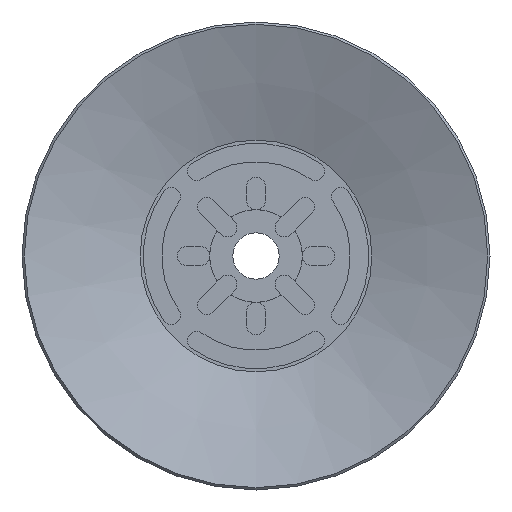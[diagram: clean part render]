
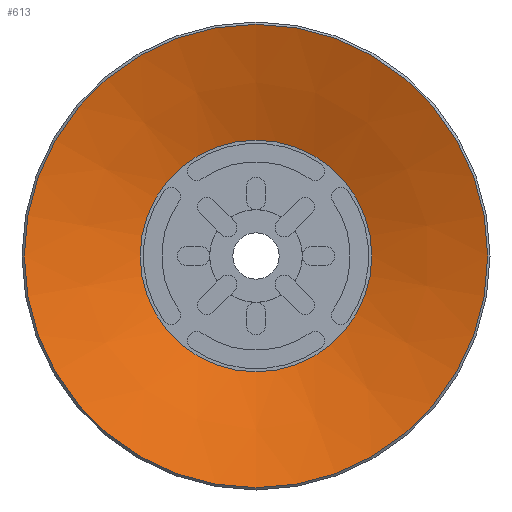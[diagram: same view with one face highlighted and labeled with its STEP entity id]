
A CAD part, front view. The second image highlights one B-rep face of the part: STEP entity #613.
In plain terms, the highlighted conical face has half-angle 70.201 degrees and reference radius 7.5 mm.
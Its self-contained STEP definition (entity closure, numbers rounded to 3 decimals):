
#613=ADVANCED_FACE('',(#999,#1000),#1001,.F.);
#999=FACE_BOUND('',#1431,.T.);
#1000=FACE_OUTER_BOUND('',#1432,.T.);
#1001=CONICAL_SURFACE('',#1433,7.5,1.225);
#1431=EDGE_LOOP('',(#2702));
#1432=EDGE_LOOP('',(#2703));
#1433=AXIS2_PLACEMENT_3D('',#2704,#2705,#2706);
#2702=ORIENTED_EDGE('',*,*,#3257,.F.);
#2703=ORIENTED_EDGE('',*,*,#3258,.T.);
#2704=CARTESIAN_POINT('',(0.0,0.0,2.7));
#2705=DIRECTION('',(0.0,0.,-1.0));
#2706=DIRECTION('',(0.0,1.0,0.));
#3257=EDGE_CURVE('',#3916,#3916,#3917,.T.);
#3258=EDGE_CURVE('',#3918,#3918,#3919,.T.);
#3916=VERTEX_POINT('',#5114);
#3917=CIRCLE('',#5115,7.5);
#3918=VERTEX_POINT('',#5116);
#3919=CIRCLE('',#5117,15.0);
#5114=CARTESIAN_POINT('',(0.0,7.5,2.7));
#5115=AXIS2_PLACEMENT_3D('',#5818,#5819,#5820);
#5116=CARTESIAN_POINT('',(0.0,15.0,0.));
#5117=AXIS2_PLACEMENT_3D('',#5821,#5822,#5823);
#5818=CARTESIAN_POINT('',(0.0,0.0,2.7));
#5819=DIRECTION('',(0.0,0.,-1.0));
#5820=DIRECTION('',(0.0,1.0,0.));
#5821=CARTESIAN_POINT('',(0.0,0.0,0.0));
#5822=DIRECTION('',(0.0,0.,-1.0));
#5823=DIRECTION('',(0.0,1.0,0.));
